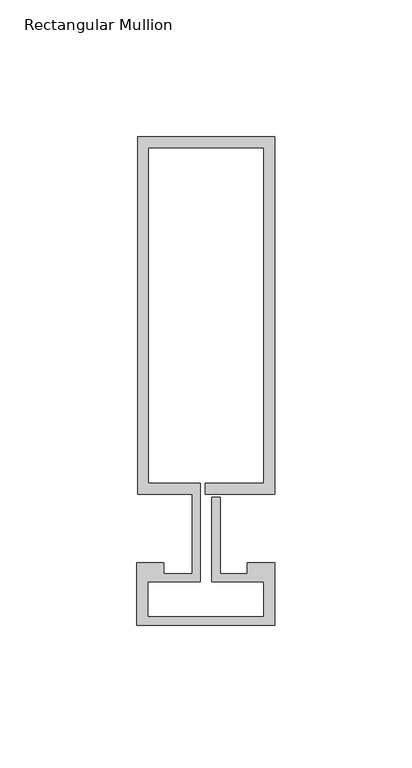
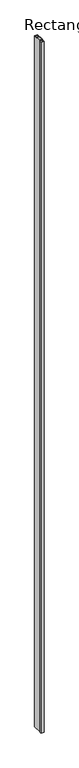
"""IFC4 building model written with IfcOpenShell, lengths in millimetres: member geometry, Rectangular Mullion : Reynaers_CW-50_Mullion-Transom_Horizontal_130.4mm_Facecap-02C."""

from ifc_helpers import new_model, si_unit, frame, origin, place, context, project, spatial, polyline, outline, extrude, source, transform, mapped, element, save


def rectangular_mullion_430c60db(model_context):
    return source(origin(), model_context, "Body", "SweptSolid", [
        extrude(outline(polyline([(-24.8004059, 142.9), (25.1995941, 142.9), (25.1995941, 12.5), (0.0, 12.5), (0.0, 16.5), (21.1995941, 16.5), (21.1995941, 138.9), (-20.8004059, 138.9), (-20.8004059, 16.5), (-1.9004059, 16.5), (-1.9004059, -19.5), (-20.994845, -19.5), (-20.994845, -32.2191338), (21.1995941, -32.2191338), (21.1995941, -19.5), (2.2995941, -19.5), (2.2995941, 11.5), (5.2995941, 11.5), (5.2995941, -16.5), (15.2996495, -16.5), (15.2996495, -12.5), (25.1995941, -12.5), (25.1995941, -35.3), (-24.994845, -35.3), (-24.994845, -12.5), (-15.2996495, -12.5), (-15.2996495, -16.5), (-4.9004059, -16.5), (-4.9004059, 12.5), (-24.8004059, 12.5), (-24.8004059, 142.9)])), frame((0.0, 0.0, -12000.0), z_axis=(0.0, 0.0, 1.0), x_axis=(1.0, 0.0, 0.0)), (0.0, 0.0, 1.0), 12000.0),
    ])


if __name__ == "__main__":
    model = new_model("IFC4")
    model_context = context("Model", 3, world=origin())
    ifc_project = project(units=[si_unit("LENGTHUNIT", "METRE", prefix="MILLI")], contexts=[model_context])
    site = spatial("IfcSite", under=ifc_project)
    building = spatial("IfcBuilding", under=site)
    placement = place(None, origin())
    rectangular_mullion_shape = rectangular_mullion_430c60db(model_context)
    element("IfcMember", 1, ObjectType="Rectangular Mullion : Reynaers_CW-50_Mullion-Transom_Horizontal_130.4mm_Facecap-02C", at=placement, inside=building, context=model_context, shape_type="MappedRepresentation", body=[
        mapped(rectangular_mullion_shape, transform((0.0, 0.0, 0.0), x_axis=(1.0, 0.0, 0.0), y_axis=(0.0, 1.0, 0.0), z_axis=(0.0, 0.0, 1.0))),
    ])
    save(model, "model.ifc")
